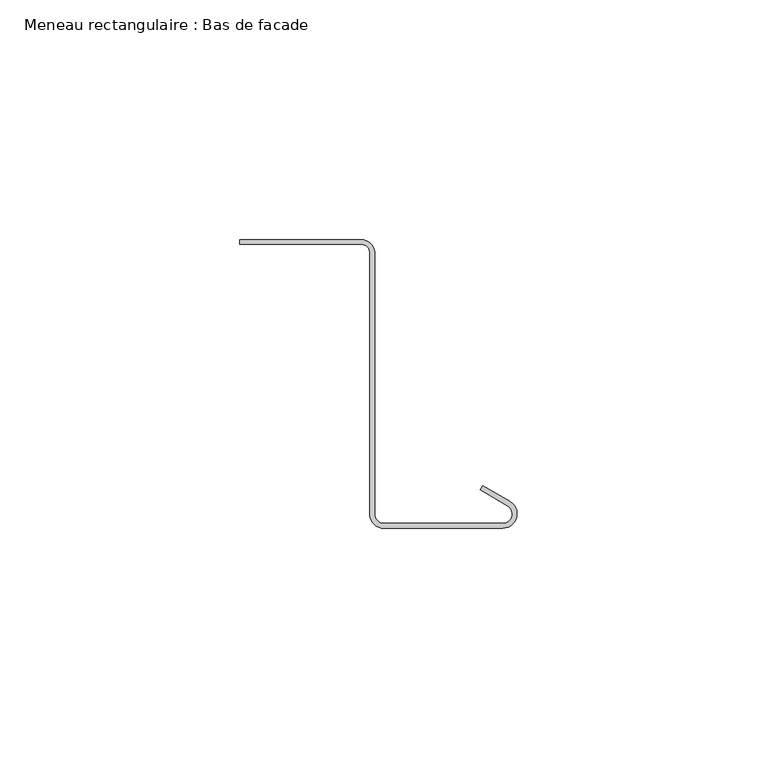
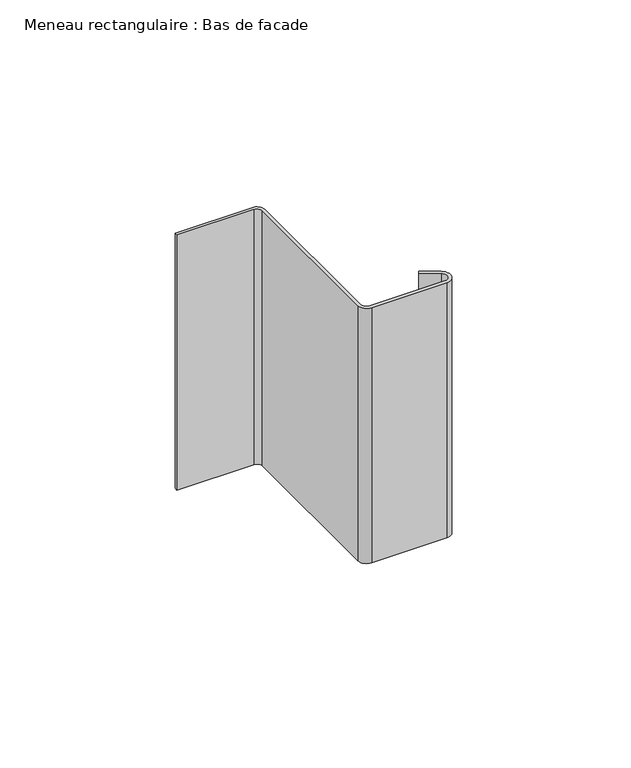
"""IFC4 building model written with IfcOpenShell, lengths in millimetres: member geometry, Meneau rectangulaire : Bas de facade."""

from ifc_helpers import new_model, si_unit, point, frame, frame_2d, origin, place, context, project, spatial, polyline, circle_curve, trimmed, segment, composite_curve, outline, extrude, source, transform, mapped, element, save


def meneau_rectangulaire_bas_de_facade_7ae9e72d(model_context):
    return source(origin(), model_context, "Body", "SweptSolid", [
        extrude(outline(composite_curve([segment(trimmed(circle_curve(frame_2d((-32.4584179, 0.2088923)), 2.75), [point((-32.4584179, 2.9588923))], [point((-29.7143802, 0.3898824))], False, "CARTESIAN"), True, "CONTINUOUS"), segment(polyline([(-29.7143802, 0.3898824), (-29.7143802, -54.5495817)]), True, "CONTINUOUS"), segment(trimmed(circle_curve(frame_2d((-27.735368, -54.2605998)), 2.0), [point((-29.7143802, -54.5495817))], [point((-27.735368, -56.2605998))], True, "CARTESIAN"), True, "CONTINUOUS"), segment(polyline([(-27.735368, -56.2605998), (-3.0, -56.2605998)]), True, "CONTINUOUS"), segment(trimmed(circle_curve(frame_2d((-3.0, -54.2605998)), 2.0), [point((-3.0, -56.2605998))], [point((-2.0, -52.528549))], True, "CARTESIAN"), True, "CONTINUOUS"), segment(polyline([(-2.0, -52.528549), (-7.6638061, -49.258549), (-7.1638061, -48.3925235), (-1.5, -51.6625235)]), True, "CONTINUOUS"), segment(trimmed(circle_curve(frame_2d((-3.0, -54.2605998)), 3.0), [point((-1.5, -51.6625235))], [point((-3.0, -57.2605998))], False, "CARTESIAN"), True, "CONTINUOUS"), segment(polyline([(-3.0, -57.2605998), (-27.735368, -57.2605998)]), True, "CONTINUOUS"), segment(trimmed(circle_curve(frame_2d((-27.735368, -54.2605998)), 3.0), [point((-27.735368, -57.2605998))], [point((-30.7239521, -54.522067))], False, "CARTESIAN"), True, "CONTINUOUS"), segment(polyline([(-30.7239521, -54.522067), (-30.7239521, 0.4415475)]), True, "CONTINUOUS"), segment(trimmed(circle_curve(frame_2d((-32.4584179, 0.2088923)), 1.75), [point((-30.7239521, 0.4415475))], [point((-32.4584179, 1.9588923))], True, "CARTESIAN"), True, "CONTINUOUS"), segment(polyline([(-32.4584179, 1.9588923), (-57.8548383, 1.9588923), (-57.8548383, 2.9588923), (-32.4584179, 2.9588923)]), True, "CONTINUOUS")], self_intersect=False)), frame((0.0, 0.0, -89.0), z_axis=(0.0, 0.0, 1.0), x_axis=(1.0, 0.0, 0.0)), (0.0, 0.0, 1.0), 89.0),
    ])


if __name__ == "__main__":
    model = new_model("IFC4")
    model_context = context("Model", 3, world=origin())
    ifc_project = project(units=[si_unit("LENGTHUNIT", "METRE", prefix="MILLI")], contexts=[model_context])
    site = spatial("IfcSite", under=ifc_project)
    building = spatial("IfcBuilding", under=site)
    placement = place(None, origin())
    meneau_rectangulaire_bas_de_facade_shape = meneau_rectangulaire_bas_de_facade_7ae9e72d(model_context)
    element("IfcMember", 1, ObjectType="Meneau rectangulaire : Bas de facade", at=placement, inside=building, context=model_context, shape_type="MappedRepresentation", body=[
        mapped(meneau_rectangulaire_bas_de_facade_shape, transform((0.0, 0.0, 0.0), x_axis=(1.0, 0.0, 0.0), y_axis=(0.0, 1.0, 0.0), z_axis=(0.0, 0.0, 1.0))),
    ])
    save(model, "model.ifc")
